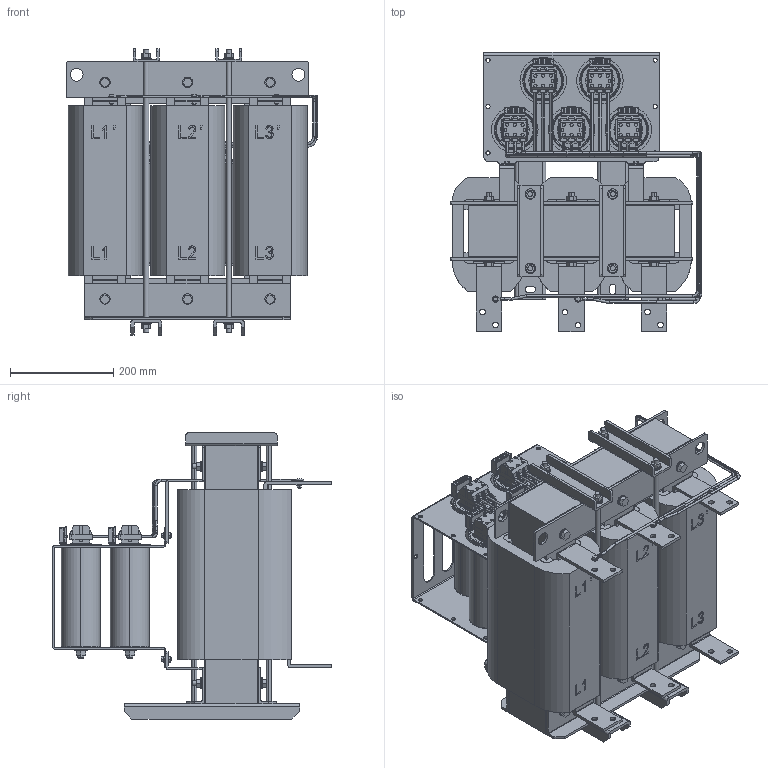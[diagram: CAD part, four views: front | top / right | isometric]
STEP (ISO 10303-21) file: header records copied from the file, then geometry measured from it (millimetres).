
FILE_DESCRIPTION (( 'STEP AP214' ), '1' );
FILE_NAME ('250KW正弦波滤波电抗器.STEP', '2020-09-02T09:42:27', ( 'Windows 用户' ), ( 'Microsoft' ), 'SwSTEP 2.0', 'SolidWorks 2017', '' );
FILE_SCHEMA (( 'AUTOMOTIVE_DESIGN' ));
Length unit declared in the file: millimetre
Products named in the file (1): 250KW淏玾疏薦疏萇蕨ん
Bounding box: 487.29 x 541 x 554.95 mm (x, y, z)
Volume: 40515907.2 mm3; surface area: 4249072.2 mm2
Topology: 200 solids, 200 shells, 3665 faces, 9412 edges, 6186 vertices
Faces by surface type: plane 2230, cylinder 1210, bspline 205, cone 20
Full cylindrical faces by diameter (mm): 5 x15
Entity records: 149262 total; most frequent: CARTESIAN_POINT 31838, ORIENTED_EDGE 18840, DIRECTION 18130, EDGE_CURVE 9420, VECTOR 6564, LINE 6564, VERTEX_POINT 6201, AXIS2_PLACEMENT_3D 5783
